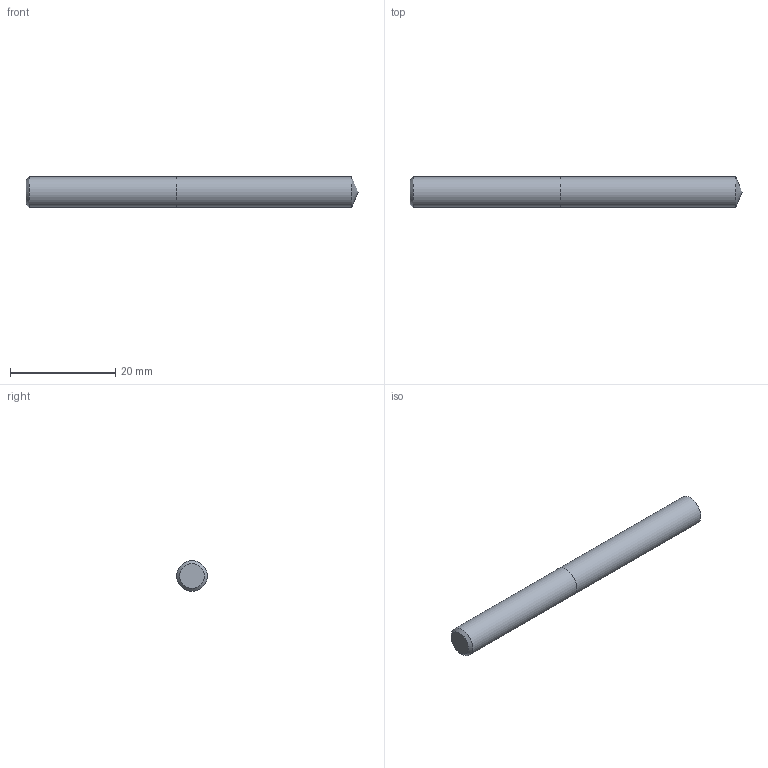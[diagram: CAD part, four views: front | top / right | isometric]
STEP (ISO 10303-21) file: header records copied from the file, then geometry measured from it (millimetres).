
FILE_DESCRIPTION (( 'STEP AP214' ), '1' );
FILE_NAME ('03-2343.STEP', '2022-06-03T06:29:07', ( 'USER' ), ( '' ), 'SwSTEP 2.0', 'SolidWorks 2018', '' );
FILE_SCHEMA (( 'AUTOMOTIVE_DESIGN' ));
Length unit declared in the file: inch
Products named in the file (1): 03-2343
Bounding box: 63.11 x 5.79 x 5.79 mm (x, y, z)
Volume: 1638.5 mm3; surface area: 1227.3 mm2
Topology: 2 solids, 2 shells, 7 faces, 11 edges, 7 vertices
Faces by surface type: plane 3, cylinder 2, cone 2
Full cylindrical faces by diameter (mm): 5.791 x2
Entity records: 214 total; most frequent: DIRECTION 26, CARTESIAN_POINT 18, AXIS2_PLACEMENT_3D 13, EDGE_LOOP 10, ORIENTED_EDGE 10, FACE_OUTER_BOUND 9, DIMENSIONAL_EXPONENTS 7, ADVANCED_FACE 7
